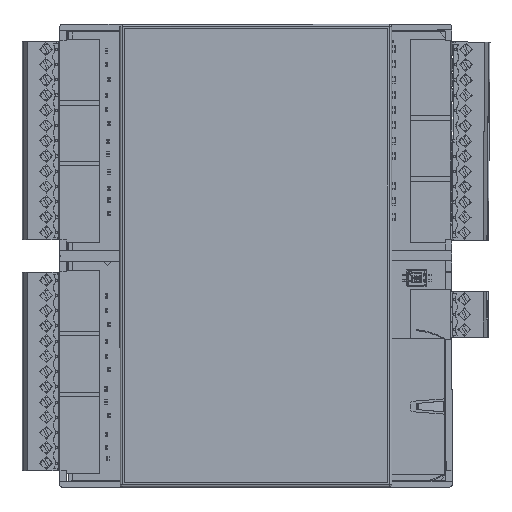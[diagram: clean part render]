
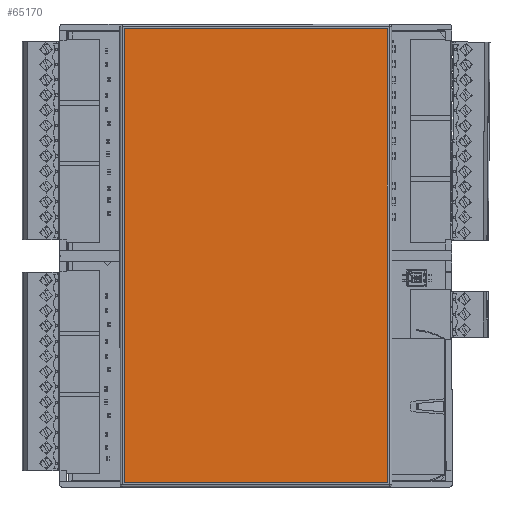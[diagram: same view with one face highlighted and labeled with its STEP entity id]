
A CAD part, top view. The second image highlights one B-rep face of the part: STEP entity #65170.
In plain terms, the highlighted planar face has unit normal (0, 0, 1) as drawn and (0, 1, 0) by its records, which use the part's own axes.
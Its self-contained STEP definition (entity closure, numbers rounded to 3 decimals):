
#6776=FACE_OUTER_BOUND('',#10437,.T.);
#10437=EDGE_LOOP('',(#51094,#51095,#51096,#51097));
#16114=LINE('',#108571,#23331);
#16116=LINE('',#108575,#23333);
#16118=LINE('',#108579,#23335);
#16120=LINE('',#108582,#23337);
#23331=VECTOR('',#81318,1.);
#23333=VECTOR('',#81322,1.);
#23335=VECTOR('',#81326,1.);
#23337=VECTOR('',#81330,1.);
#29791=VERTEX_POINT('',#108568);
#29792=VERTEX_POINT('',#108570);
#29793=VERTEX_POINT('',#108574);
#29794=VERTEX_POINT('',#108578);
#37375=EDGE_CURVE('',#29791,#29792,#16114,.T.);
#37377=EDGE_CURVE('',#29792,#29793,#16116,.T.);
#37379=EDGE_CURVE('',#29793,#29794,#16118,.T.);
#37381=EDGE_CURVE('',#29794,#29791,#16120,.T.);
#51094=ORIENTED_EDGE('',*,*,#37375,.F.);
#51095=ORIENTED_EDGE('',*,*,#37381,.F.);
#51096=ORIENTED_EDGE('',*,*,#37379,.F.);
#51097=ORIENTED_EDGE('',*,*,#37377,.F.);
#62319=PLANE('',#70087);
#65170=ADVANCED_FACE('',(#6776),#62319,.T.);
#70087=AXIS2_PLACEMENT_3D('',#108583,#81331,#81332);
#81318=DIRECTION('',(0.,0.,-1.));
#81322=DIRECTION('',(1.,0.,0.));
#81326=DIRECTION('',(0.,0.,1.));
#81330=DIRECTION('',(-1.,0.,0.));
#81331=DIRECTION('center_axis',(0.,1.,0.));
#81332=DIRECTION('ref_axis',(0.,0.,1.));
#108568=CARTESIAN_POINT('',(-52.1,31.9,30.2));
#108570=CARTESIAN_POINT('',(-52.1,31.9,-30.2));
#108571=CARTESIAN_POINT('',(-52.1,31.9,30.2));
#108574=CARTESIAN_POINT('',(52.1,31.9,-30.2));
#108575=CARTESIAN_POINT('',(-52.1,31.9,-30.2));
#108578=CARTESIAN_POINT('',(52.1,31.9,30.2));
#108579=CARTESIAN_POINT('',(52.1,31.9,-30.2));
#108582=CARTESIAN_POINT('',(52.1,31.9,30.2));
#108583=CARTESIAN_POINT('Origin',(0.,31.9,0.));
